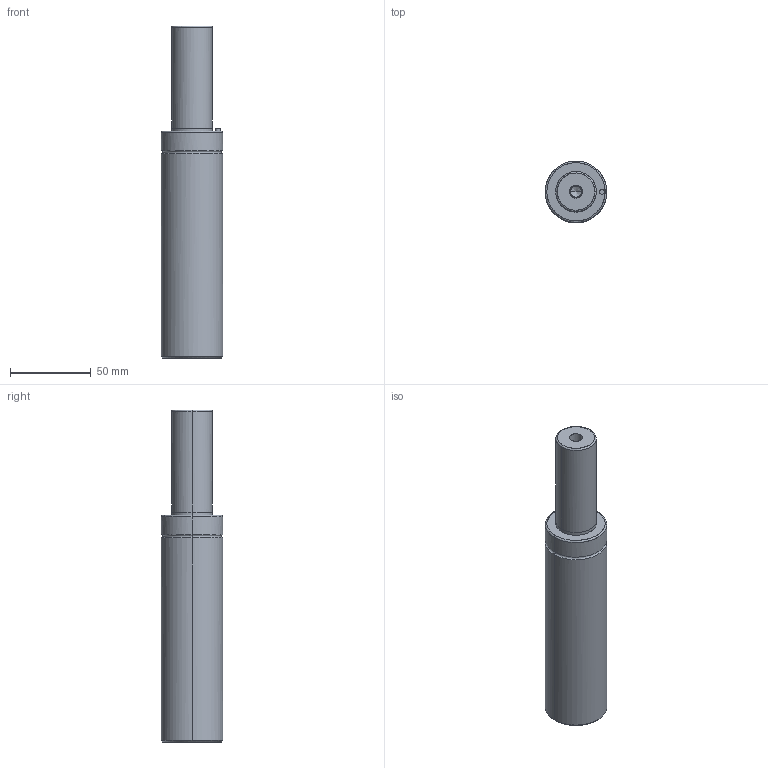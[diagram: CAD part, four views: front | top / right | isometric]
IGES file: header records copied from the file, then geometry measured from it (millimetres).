
Global section: file name: E:\UnigraphicsGraphicData\MISUMI_PRESS-PARTS\IGES\3d_gsm38-63_03905_r00.igs; native system: NX V5.0; preprocessor: UGS NX IGES V5.0; author: MISUMI; date: 20110105.160814; units: millimetre
Bounding box: 38 x 37.96 x 205 mm (x, y, z)
Surface area: 25063.9 mm2 (no closed solid volume)
Topology: 0 solids, 0 shells, 50 faces, 328 edges, 320 vertices
Faces by surface type: bspline 50
